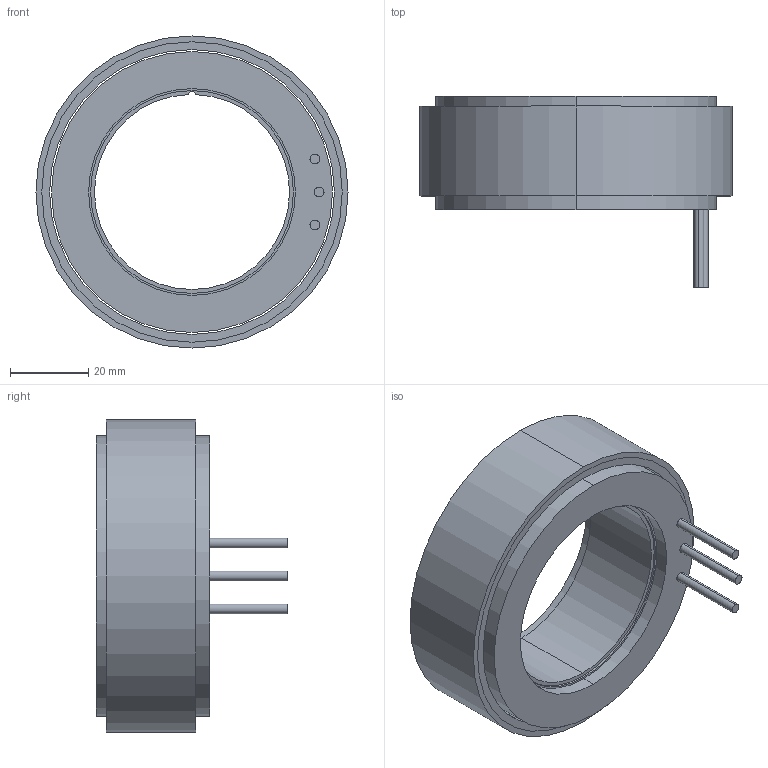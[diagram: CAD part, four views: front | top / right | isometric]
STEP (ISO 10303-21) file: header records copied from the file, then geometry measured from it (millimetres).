
FILE_DESCRIPTION (( 'STEP AP214' ), '1' );
FILE_NAME ('UE8030µç»ú.STEP', '2026-03-04T01:19:36', ( '' ), ( '' ), 'SwSTEP 2.0', 'SolidWorks 2023', '' );
FILE_SCHEMA (( 'AUTOMOTIVE_DESIGN' ));
Length unit declared in the file: millimetre
Products named in the file (1): UE8030电机
Bounding box: 80 x 49 x 80 mm (x, y, z)
Volume: 79132 mm3; surface area: 39749.8 mm2
Topology: 3 solids, 3 shells, 40 faces, 81 edges, 54 vertices
Faces by surface type: cylinder 27, plane 13
Entity records: 1132 total; most frequent: DIRECTION 217, CARTESIAN_POINT 176, ORIENTED_EDGE 162, AXIS2_PLACEMENT_3D 95, EDGE_CURVE 81, CIRCLE 54, VERTEX_POINT 54, EDGE_LOOP 53
